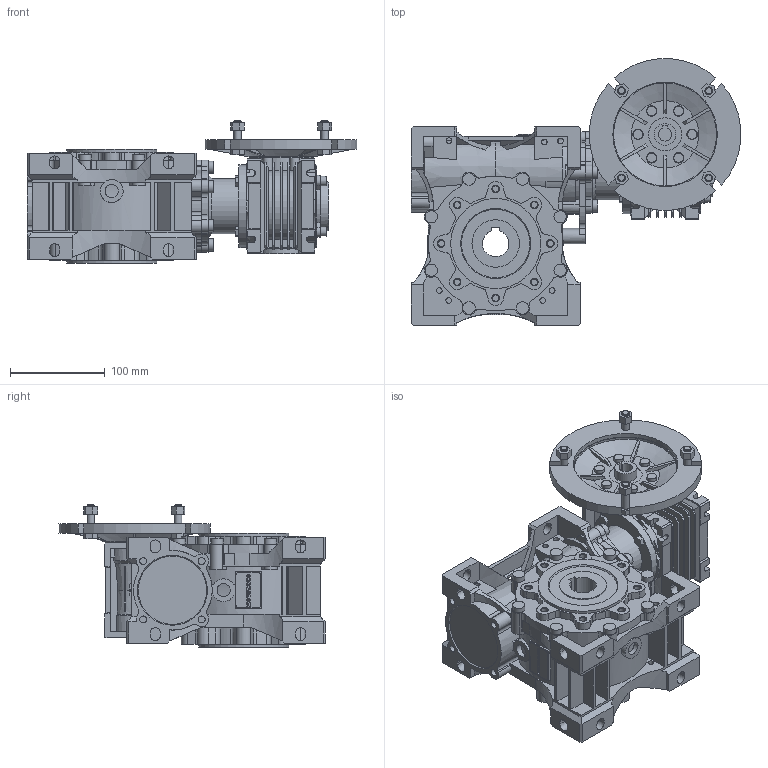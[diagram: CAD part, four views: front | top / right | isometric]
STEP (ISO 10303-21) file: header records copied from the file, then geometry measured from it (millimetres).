
FILE_DESCRIPTION(/* description */ ('STEP AP214'),/* implementation_level */ '2;1');
FILE_NAME(/* name */ 'NMRVP-NMRVP 040-075 100 (10x10) AS2 160x14 18 NO 28 NO NO - - NO - - - NO NO - --(--------)',/* time_stamp */ '2024-10-24T11:17:18+02:00',/* author */ ('License CC BY-ND 4.0'),/* organization */ ('CADENAS'),/* preprocessor_version */ 'ST-DEVELOPER v19.3',/* originating_system */ 'PARTsolutions',/* authorisation */ ' ');
FILE_SCHEMA (('AUTOMOTIVE_DESIGN {1 0 10303 214 3 1 1}'));
Products named in the file (11): NMRVP-NMRVP 040-075 100 (10x10) AS2 160x14 18 NO 28 NO NO - - NO - - 
- NO NO - --(--------); W.075.01.M; 075-28 (120); W.075.14.24.M-p; 040-075-TRA; W.040.01.M; 040-18 (78); VB 040-14 (14)-p; 4071 B5; Corona 40-p; 75-50
Assembly tree (10 placements, depth 2):
  NMRVP-NMRVP 040-075 100 (10x10) AS2 160x14 18 NO 28 NO NO - - NO - - 
- NO NO - --(--------)
    W.075.01.M
    075-28 (120)
    W.075.14.24.M-p
    040-075-TRA
    W.040.01.M
    040-18 (78)
    VB 040-14 (14)-p
    4071 B5
    Corona 40-p
    75-50
Bounding box: 347.24 x 280.74 x 150 mm (x, y, z)
Volume: 3648387.3 mm3; surface area: 593947.6 mm2
Topology: 10 solids, 16 shells, 2260 faces, 6100 edges, 4011 vertices
Faces by surface type: plane 1456, cylinder 708, cone 92, torus 4
Full cylindrical faces by diameter (mm): 4.917 x8, 5.55 x3, 6 x14, 6.647 x16, 7 x6, 7.26 x12, 8 x8, 10 x11, 10.8 x4, 11 x6, 13 x14, 14 x3, 16 x1, 23 x2, 24 x1, 28 x1, 29 x1, 30 x2, 31 x1, 35 x1, 36 x1, 40 x2, 42 x1, 47 x1, 48 x1, 50 x3, 58 x1, 60 x3, 67.5 x1, 68 x3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
Entity records: 86061 total; most frequent: CARTESIAN_POINT 13270, DIRECTION 11903, ORIENTED_EDGE 11762, EDGE_CURVE 5881, AXIS2_PLACEMENT_3D 4062, VERTEX_POINT 3982, LINE 3779, VECTOR 3779
